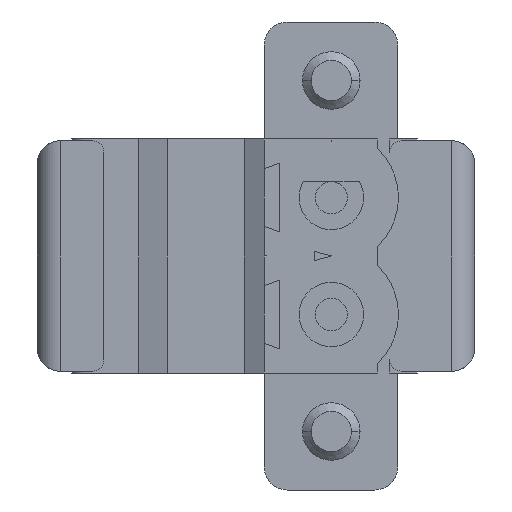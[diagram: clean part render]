
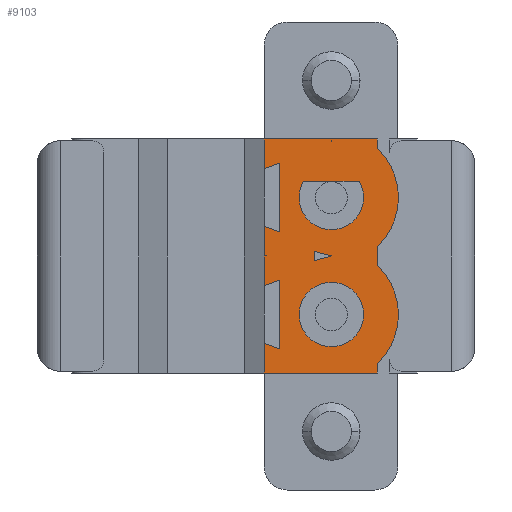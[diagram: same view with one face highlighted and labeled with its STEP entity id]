
A CAD part, left-side view. The second image highlights one B-rep face of the part: STEP entity #9103.
In plain terms, the highlighted planar face has unit normal (-1, 0, 0).
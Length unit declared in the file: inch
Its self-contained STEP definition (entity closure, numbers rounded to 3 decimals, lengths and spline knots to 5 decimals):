
#9=DIRECTION('',(0.,0.,1.));
#10=VECTOR('',#9,0.11732);
#11=CARTESIAN_POINT('',(0.44409,0.60492,1.05591));
#12=LINE('',#11,#10);
#85=DIRECTION('',(0.,0.,1.));
#86=VECTOR('',#85,0.03301);
#87=CARTESIAN_POINT('',(0.44409,0.43819,0.99806));
#88=LINE('',#87,#86);
#89=DIRECTION('',(0.,0.,1.));
#90=VECTOR('',#89,0.01651);
#91=CARTESIAN_POINT('',(0.44409,0.43819,0.81457));
#92=LINE('',#91,#90);
#93=DIRECTION('',(0.,-1.,0.));
#94=VECTOR('',#93,0.1935);
#95=CARTESIAN_POINT('',(0.44409,0.63169,0.81457));
#96=LINE('',#95,#94);
#97=DIRECTION('',(0.,0.945,0.327));
#98=VECTOR('',#97,0.02833);
#99=CARTESIAN_POINT('',(0.44409,0.60492,0.85591));
#100=LINE('',#99,#98);
#101=DIRECTION('',(0.,-0.945,0.327));
#102=VECTOR('',#101,0.02833);
#103=CARTESIAN_POINT('',(0.44409,0.63169,
0.96398));
#104=LINE('',#103,#102);
#105=DIRECTION('',(0.,0.,-1.));
#106=VECTOR('',#105,0.05059);
#107=CARTESIAN_POINT('',(0.44409,0.63169,1.01457));
#108=LINE('',#107,#106);
#109=DIRECTION('',(0.,0.,-1.));
#110=VECTOR('',#109,0.05059);
#111=CARTESIAN_POINT('',(0.44409,0.63169,1.06516));
#112=LINE('',#111,#110);
#113=DIRECTION('',(0.,0.945,0.327));
#114=VECTOR('',#113,0.02833);
#115=CARTESIAN_POINT('',(0.44409,0.60492,1.05591));
#116=LINE('',#115,#114);
#117=DIRECTION('',(0.,-0.945,0.327));
#118=VECTOR('',#117,0.02833);
#119=CARTESIAN_POINT('',(0.44409,0.63169,1.16398));
#120=LINE('',#119,#118);
#121=DIRECTION('',(0.,0.,-1.));
#122=VECTOR('',#121,0.05059);
#123=CARTESIAN_POINT('',(0.44409,0.63169,1.21457));
#124=LINE('',#123,#122);
#125=DIRECTION('',(0.,1.,0.));
#126=VECTOR('',#125,0.11476);
#127=CARTESIAN_POINT('',(0.44409,0.51693,1.21457));
#128=LINE('',#127,#126);
#129=DIRECTION('',(0.,1.,0.));
#130=VECTOR('',#129,0.07874);
#131=CARTESIAN_POINT('',(0.44409,0.43819,1.21457));
#132=LINE('',#131,#130);
#133=DIRECTION('',(0.,0.966,-0.259));
#134=VECTOR('',#133,0.03057);
#135=CARTESIAN_POINT('',(0.44409,0.51693,1.01457));
#136=LINE('',#135,#134);
#137=DIRECTION('',(0.,-0.966,-0.259));
#138=VECTOR('',#137,0.03057);
#139=CARTESIAN_POINT('',(0.44409,0.54646,1.02248));
#140=LINE('',#139,#138);
#141=DIRECTION('',(0.,0.,1.));
#142=VECTOR('',#141,0.01582);
#143=CARTESIAN_POINT('',(0.44409,0.54646,1.00666));
#144=LINE('',#143,#142);
#145=CARTESIAN_POINT('',(0.44409,0.51693,
0.91457));
#146=DIRECTION('',(1.,0.,0.));
#147=DIRECTION('',(0.,-1.,0.));
#148=AXIS2_PLACEMENT_3D('',#145,#146,#147);
#150=CARTESIAN_POINT('',(0.44409,0.51693,
0.91457));
#151=DIRECTION('',(1.,0.,0.));
#152=DIRECTION('',(0.,1.,0.));
#153=AXIS2_PLACEMENT_3D('',#150,#151,#152);
#155=CARTESIAN_POINT('',(0.44409,0.51693,1.11457));
#156=DIRECTION('',(1.,0.,0.));
#157=DIRECTION('',(0.,-0.866,0.5));
#158=AXIS2_PLACEMENT_3D('',#155,#156,#157);
#160=DIRECTION('',(0.,-1.,0.));
#161=VECTOR('',#160,0.09547);
#162=CARTESIAN_POINT('',(0.44409,0.56466,1.14213));
#163=LINE('',#162,#161);
#164=CARTESIAN_POINT('',(0.44409,0.51693,1.11457));
#165=DIRECTION('',(1.,0.,0.));
#166=DIRECTION('',(0.,1.,0.));
#167=AXIS2_PLACEMENT_3D('',#164,#165,#166);
#169=CARTESIAN_POINT('',(0.44409,0.51693,1.11457));
#170=DIRECTION('',(1.,0.,0.));
#171=DIRECTION('',(0.,-1.,0.));
#172=AXIS2_PLACEMENT_3D('',#169,#170,#171);
#183=CARTESIAN_POINT('',(0.44409,0.51693,1.11457));
#184=DIRECTION('',(-1.,0.,0.));
#185=DIRECTION('',(0.,-0.686,-0.728));
#186=AXIS2_PLACEMENT_3D('',#183,#184,#185);
#303=CARTESIAN_POINT('',(0.44409,0.51693,
0.91457));
#304=DIRECTION('',(-1.,0.,0.));
#305=DIRECTION('',(0.,-0.686,-0.728));
#306=AXIS2_PLACEMENT_3D('',#303,#304,#305);
#324=DIRECTION('',(0.,0.,1.));
#325=VECTOR('',#324,0.05059);
#326=CARTESIAN_POINT('',(0.44409,0.63169,
0.81457));
#327=LINE('',#326,#325);
#348=DIRECTION('',(0.,0.,1.));
#349=VECTOR('',#348,0.11732);
#350=CARTESIAN_POINT('',(0.44409,0.60492,
0.85591));
#351=LINE('',#350,#349);
#360=DIRECTION('',(0.,0.,-1.));
#361=VECTOR('',#360,0.01651);
#362=CARTESIAN_POINT('',(0.44409,0.43819,1.21457));
#363=LINE('',#362,#361);
#6777=CARTESIAN_POINT('',(0.44409,0.60492,
1.17323));
#6779=VERTEX_POINT('',#6777);
#6781=CARTESIAN_POINT('',(0.44409,0.60492,
1.05591));
#6782=VERTEX_POINT('',#6781);
#6876=CARTESIAN_POINT('',(0.44409,0.56466,
1.14213));
#6878=VERTEX_POINT('',#6876);
#6879=CARTESIAN_POINT('',(0.44409,0.4692,
1.14213));
#6880=VERTEX_POINT('',#6879);
#6884=CARTESIAN_POINT('',(0.44409,0.43819,
1.19806));
#6886=VERTEX_POINT('',#6884);
#6887=CARTESIAN_POINT('',(0.44409,0.46181,
1.11457));
#6889=VERTEX_POINT('',#6887);
#6918=CARTESIAN_POINT('',(0.44409,0.63169,
1.16398));
#6920=VERTEX_POINT('',#6918);
#6923=CARTESIAN_POINT('',(0.44409,0.63169,
1.21457));
#6924=VERTEX_POINT('',#6923);
#6969=CARTESIAN_POINT('',(0.44409,0.63169,
1.01457));
#6970=VERTEX_POINT('',#6969);
#6975=CARTESIAN_POINT('',(0.44409,0.43819,
1.21457));
#6976=VERTEX_POINT('',#6975);
#6977=CARTESIAN_POINT('',(0.44409,0.51693,
1.21457));
#6979=VERTEX_POINT('',#6977);
#7263=CARTESIAN_POINT('',(0.44409,0.43819,
0.99806));
#7264=CARTESIAN_POINT('',(0.44409,0.43819,
1.03107));
#7265=VERTEX_POINT('',#7263);
#7266=VERTEX_POINT('',#7264);
#7273=CARTESIAN_POINT('',(0.44409,0.43819,
0.81457));
#7274=CARTESIAN_POINT('',(0.44409,0.43819,
0.83107));
#7275=VERTEX_POINT('',#7273);
#7276=VERTEX_POINT('',#7274);
#7281=CARTESIAN_POINT('',(0.44409,0.63169,
0.81457));
#7282=CARTESIAN_POINT('',(0.44409,0.63169,
0.86516));
#7283=VERTEX_POINT('',#7281);
#7284=VERTEX_POINT('',#7282);
#7285=CARTESIAN_POINT('',(0.44409,0.63169,
1.06516));
#7286=VERTEX_POINT('',#7285);
#7289=CARTESIAN_POINT('',(0.44409,0.60492,
0.85591));
#7290=VERTEX_POINT('',#7289);
#7293=CARTESIAN_POINT('',(0.44409,0.46181,
0.91457));
#7295=VERTEX_POINT('',#7293);
#7297=CARTESIAN_POINT('',(0.44409,0.57205,
0.91457));
#7298=VERTEX_POINT('',#7297);
#7317=CARTESIAN_POINT('',(0.44409,0.60492,
0.97323));
#7318=VERTEX_POINT('',#7317);
#7319=CARTESIAN_POINT('',(0.44409,0.63169,
0.96398));
#7320=VERTEX_POINT('',#7319);
#7321=CARTESIAN_POINT('',(0.44409,0.54646,
1.02248));
#7322=CARTESIAN_POINT('',(0.44409,0.51693,
1.01457));
#7323=VERTEX_POINT('',#7321);
#7324=VERTEX_POINT('',#7322);
#7325=CARTESIAN_POINT('',(0.44409,0.54646,
1.00666));
#7326=VERTEX_POINT('',#7325);
#7327=CARTESIAN_POINT('',(0.44409,0.57205,
1.11457));
#7328=VERTEX_POINT('',#7327);
#9039=CARTESIAN_POINT('',(0.44409,0.43191,
0.92539));
#9040=DIRECTION('',(-1.,0.,0.));
#9041=DIRECTION('',(0.,-1.,0.));
#9042=AXIS2_PLACEMENT_3D('',#9039,#9040,#9041);
#9043=PLANE('',#9042);
#9045=ORIENTED_EDGE('',*,*,#9044,.F.);
#9047=ORIENTED_EDGE('',*,*,#9046,.F.);
#9049=ORIENTED_EDGE('',*,*,#9048,.F.);
#9051=ORIENTED_EDGE('',*,*,#9050,.F.);
#9053=ORIENTED_EDGE('',*,*,#9052,.F.);
#9055=ORIENTED_EDGE('',*,*,#9054,.T.);
#9057=ORIENTED_EDGE('',*,*,#9056,.F.);
#9059=ORIENTED_EDGE('',*,*,#9058,.T.);
#9061=ORIENTED_EDGE('',*,*,#9060,.F.);
#9062=ORIENTED_EDGE('',*,*,#8970,.F.);
#9063=ORIENTED_EDGE('',*,*,#8977,.F.);
#9065=ORIENTED_EDGE('',*,*,#9064,.F.);
#9066=ORIENTED_EDGE('',*,*,#8918,.T.);
#9068=ORIENTED_EDGE('',*,*,#9067,.F.);
#9070=ORIENTED_EDGE('',*,*,#9069,.F.);
#9072=ORIENTED_EDGE('',*,*,#9071,.F.);
#9074=ORIENTED_EDGE('',*,*,#9073,.F.);
#9076=ORIENTED_EDGE('',*,*,#9075,.T.);
#9077=EDGE_LOOP('',(#9045,#9047,#9049,#9051,#9053,#9055,#9057,#9059,#9061,#9062,
#9063,#9065,#9066,#9068,#9070,#9072,#9074,#9076));
#9078=FACE_OUTER_BOUND('',#9077,.F.);
#9080=ORIENTED_EDGE('',*,*,#9079,.F.);
#9082=ORIENTED_EDGE('',*,*,#9081,.F.);
#9084=ORIENTED_EDGE('',*,*,#9083,.F.);
#9085=EDGE_LOOP('',(#9080,#9082,#9084));
#9086=FACE_BOUND('',#9085,.F.);
#9088=ORIENTED_EDGE('',*,*,#9087,.F.);
#9090=ORIENTED_EDGE('',*,*,#9089,.F.);
#9091=EDGE_LOOP('',(#9088,#9090));
#9092=FACE_BOUND('',#9091,.F.);
#9094=ORIENTED_EDGE('',*,*,#9093,.F.);
#9096=ORIENTED_EDGE('',*,*,#9095,.F.);
#9098=ORIENTED_EDGE('',*,*,#9097,.F.);
#9100=ORIENTED_EDGE('',*,*,#9099,.F.);
#9101=EDGE_LOOP('',(#9094,#9096,#9098,#9100));
#9102=FACE_BOUND('',#9101,.F.);
#9103=ADVANCED_FACE('',(#9078,#9086,#9092,#9102),#9043,.T.);
#149=CIRCLE('',#148,0.05512);
#154=CIRCLE('',#153,0.05512);
#159=CIRCLE('',#158,0.05512);
#168=CIRCLE('',#167,0.05512);
#173=CIRCLE('',#172,0.05512);
#187=CIRCLE('',#186,0.11477);
#307=CIRCLE('',#306,0.11477);
#8918=EDGE_CURVE('',#6782,#6779,#12,.T.);
#8970=EDGE_CURVE('',#6970,#7320,#108,.T.);
#8977=EDGE_CURVE('',#7286,#6970,#112,.T.);
#9044=EDGE_CURVE('',#7266,#6886,#187,.T.);
#9046=EDGE_CURVE('',#7265,#7266,#88,.T.);
#9048=EDGE_CURVE('',#7276,#7265,#307,.T.);
#9050=EDGE_CURVE('',#7275,#7276,#92,.T.);
#9052=EDGE_CURVE('',#7283,#7275,#96,.T.);
#9054=EDGE_CURVE('',#7283,#7284,#327,.T.);
#9056=EDGE_CURVE('',#7290,#7284,#100,.T.);
#9058=EDGE_CURVE('',#7290,#7318,#351,.T.);
#9060=EDGE_CURVE('',#7320,#7318,#104,.T.);
#9064=EDGE_CURVE('',#6782,#7286,#116,.T.);
#9067=EDGE_CURVE('',#6920,#6779,#120,.T.);
#9069=EDGE_CURVE('',#6924,#6920,#124,.T.);
#9071=EDGE_CURVE('',#6979,#6924,#128,.T.);
#9073=EDGE_CURVE('',#6976,#6979,#132,.T.);
#9075=EDGE_CURVE('',#6976,#6886,#363,.T.);
#9079=EDGE_CURVE('',#7324,#7326,#136,.T.);
#9081=EDGE_CURVE('',#7323,#7324,#140,.T.);
#9083=EDGE_CURVE('',#7326,#7323,#144,.T.);
#9087=EDGE_CURVE('',#7295,#7298,#149,.T.);
#9089=EDGE_CURVE('',#7298,#7295,#154,.T.);
#9093=EDGE_CURVE('',#6880,#6889,#159,.T.);
#9095=EDGE_CURVE('',#6878,#6880,#163,.T.);
#9097=EDGE_CURVE('',#7328,#6878,#168,.T.);
#9099=EDGE_CURVE('',#6889,#7328,#173,.T.);
